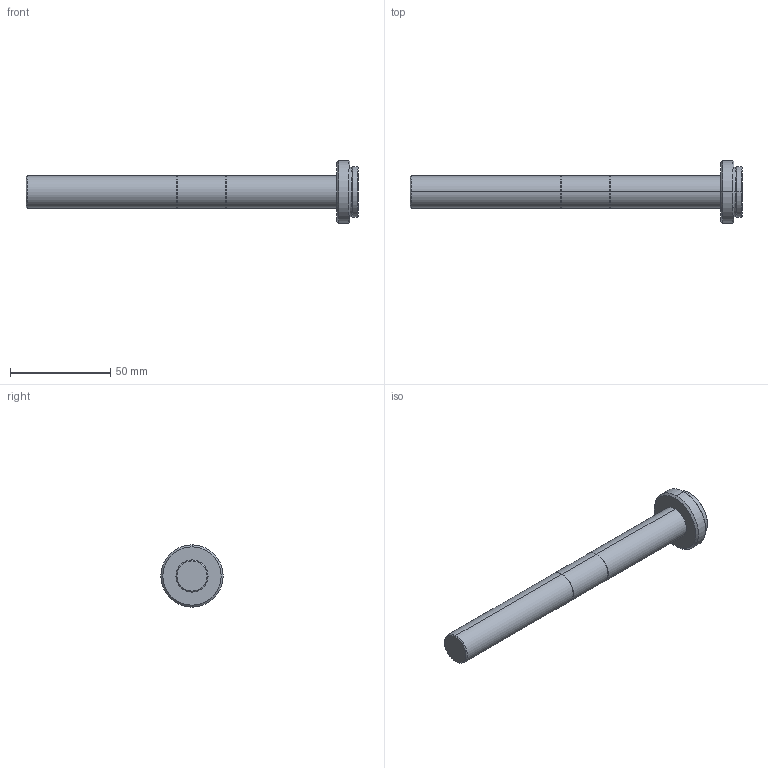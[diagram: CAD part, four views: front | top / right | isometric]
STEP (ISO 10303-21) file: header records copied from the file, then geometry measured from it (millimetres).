
FILE_DESCRIPTION (( 'STEP AP203' ), '1' );
FILE_NAME ('VS-TC2-220-16.STEP', '2014-09-26T04:46:12', ( 'miura_vst' ), ( '' ), 'SwSTEP 2.0', 'SolidWorks 2014', '' );
FILE_SCHEMA (( 'CONFIG_CONTROL_DESIGN' ));
Length unit declared in the file: millimetre
Products named in the file (1): VS-TC2-220-16
Bounding box: 165.38 x 31 x 31 mm (x, y, z)
Volume: 37963.3 mm3; surface area: 10175.7 mm2
Topology: 1 solids, 1 shells, 34 faces, 66 edges, 36 vertices
Faces by surface type: cone 18, cylinder 12, plane 4
Entity records: 931 total; most frequent: DIRECTION 172, CARTESIAN_POINT 137, ORIENTED_EDGE 132, AXIS2_PLACEMENT_3D 71, EDGE_CURVE 66, CIRCLE 36, EDGE_LOOP 36, VERTEX_POINT 36
